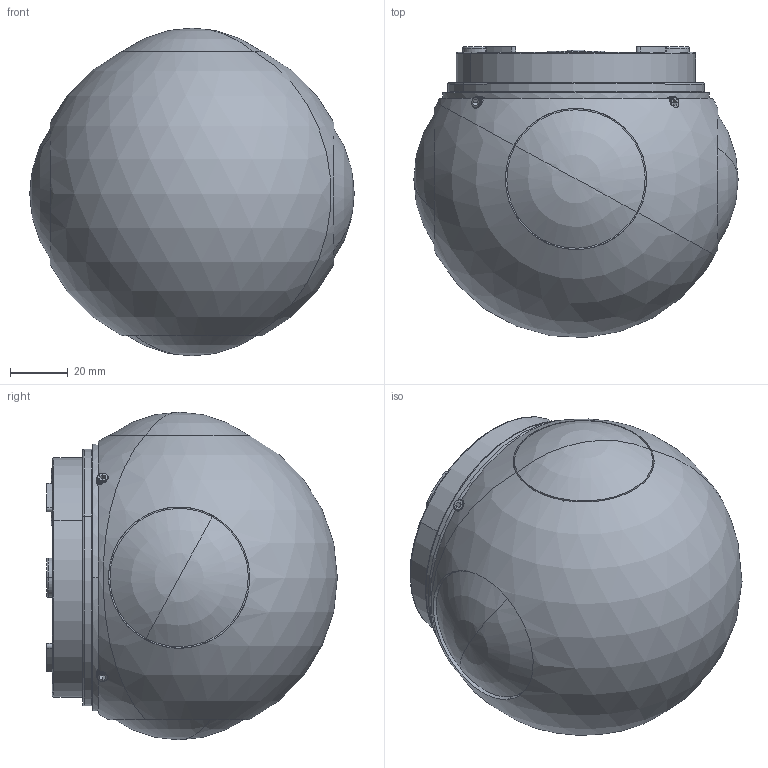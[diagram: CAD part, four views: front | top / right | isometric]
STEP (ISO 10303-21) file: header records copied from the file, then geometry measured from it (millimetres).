
FILE_DESCRIPTION(('CATIA V5 STEP Exchange'),'2;1');
FILE_NAME('G:\GaaPro\luo\5.待开发项目\1.壁灯\GW-A161\GW-A161-4.stp','2026-07-03T03:05:10+00:00',('none'),('none'),'CATIA Version 5-6 Release 2018','CATIA V5 STEP AP203','none');
FILE_SCHEMA(('CONFIG_CONTROL_DESIGN'));
Length unit declared in the file: millimetre
Products named in the file (1): Product1
Assembly tree (16 placements, depth 2):
  Product1
    #57
    #1935
    #5775
    #6727
    #7882
    #9963  x2
    #17290  x4
    #20949  x4
    #21111
Bounding box: 112.51 x 100.86 x 113.61 mm (x, y, z)
Volume: 230541 mm3; surface area: 107020.3 mm2
Topology: 16 solids, 17 shells, 800 faces, 2162 edges, 1411 vertices
Faces by surface type: cylinder 475, plane 211, torus 42, cone 42, bspline 16, sphere 14
Entity records: 21409 total; most frequent: CARTESIAN_POINT 10291, ORIENTED_EDGE 2580, DIRECTION 1640, EDGE_CURVE 1290, VERTEX_POINT 852, AXIS2_PLACEMENT_3D 824, EDGE_LOOP 583, ADVANCED_FACE 490
